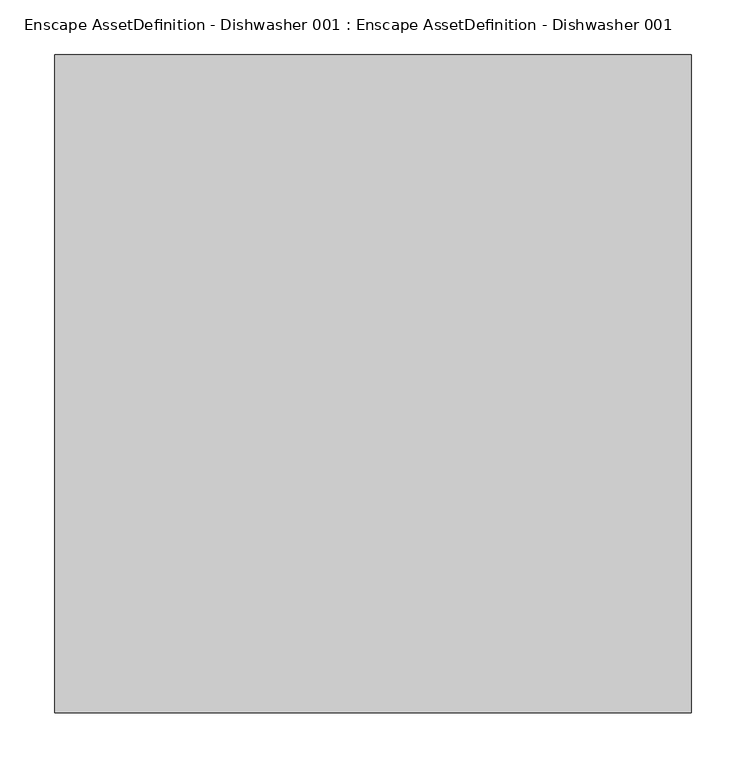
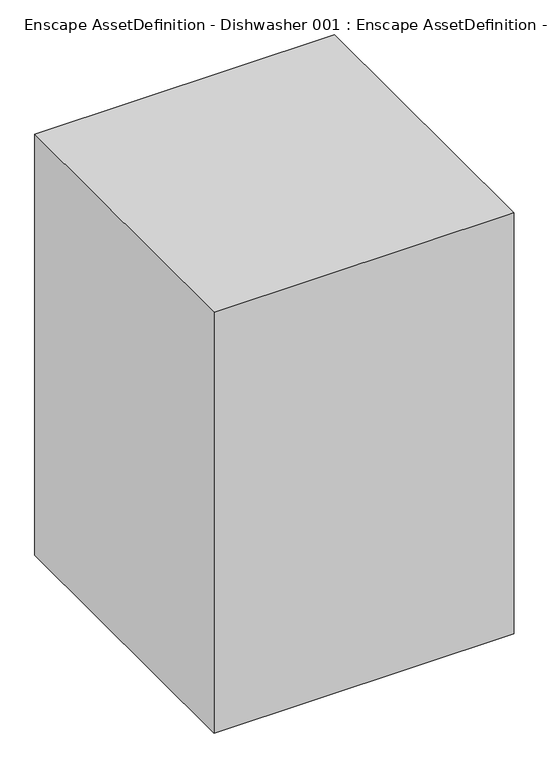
"""IFC4 building model written with IfcOpenShell, lengths in millimetres: geographic element geometry, Enscape AssetDefinition - Dishwasher 001 : Enscape AssetDefinition - Dishwasher 001."""

from ifc_helpers import new_model, si_unit, origin, place, context, project, spatial, triangles, source, transform, mapped, element, save


def enscape_assetdefinition_dishwasher_001_enscape_95202793(model_context):
    return source(origin(), model_context, "Body", "Tessellation", [
        triangles([(-289.9999949, -600.0000409, 860.0000502), (289.9999949, 0.0, 860.0000502), (-289.9999949, 0.0, 860.0000502), (-289.9999949, 0.0, 0.0), (289.9999949, 0.0, 0.0), (-289.9999949, -600.0000409, 0.0), (289.9999949, -600.0000409, 0.0), (289.9999949, -600.0000409, 860.0000502)], [[4, 6, 1], [5, 4, 3], [7, 5, 2], [6, 7, 8], [1, 8, 2], [6, 4, 5], [4, 1, 3], [5, 3, 2], [7, 2, 8], [6, 8, 1], [1, 2, 3], [6, 5, 7]]),
    ])


if __name__ == "__main__":
    model = new_model("IFC4")
    model_context = context("Model", 3, world=origin())
    ifc_project = project(units=[si_unit("LENGTHUNIT", "METRE", prefix="MILLI")], contexts=[model_context])
    site = spatial("IfcSite", under=ifc_project)
    building = spatial("IfcBuilding", under=site)
    placement = place(None, origin())
    enscape_assetdefinition_dishwasher_001_enscape_shape = enscape_assetdefinition_dishwasher_001_enscape_95202793(model_context)
    element("IfcGeographicElement", 1, ObjectType="Enscape AssetDefinition - Dishwasher 001 : Enscape AssetDefinition - Dishwasher 001", at=placement, inside=building, context=model_context, shape_type="MappedRepresentation", body=[
        mapped(enscape_assetdefinition_dishwasher_001_enscape_shape, transform((0.0, 0.0, 0.0), x_axis=(1.0, 0.0, 0.0), y_axis=(0.0, 1.0, 0.0), z_axis=(0.0, 0.0, 1.0))),
    ])
    save(model, "model.ifc")
